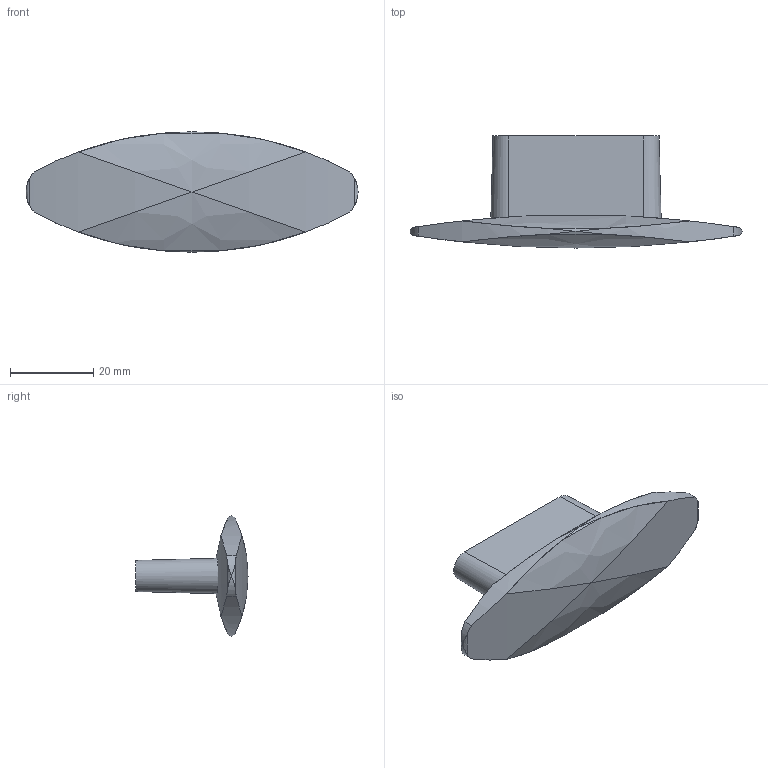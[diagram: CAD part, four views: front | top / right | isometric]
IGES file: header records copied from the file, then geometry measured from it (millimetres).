
Start section: Data from Parasolid IGES Translator 15.0.47, Copyright(c) 2006 Siemens P LM Software. All Rights Reserved.
Global section: file name: 9112662.igs; native system:  By UGS Corp.; preprocessor: XPlus GENERIC/IGES 3.0; author: Noname; organization: Noname; date: 20140122.102637; units: millimetre
Bounding box: 80 x 27 x 29 mm (x, y, z)
Surface area: 5999.2 mm2 (no closed solid volume)
Topology: 0 solids, 0 shells, 34 faces, 174 edges, 172 vertices
Faces by surface type: revolution 29, extrusion 5
